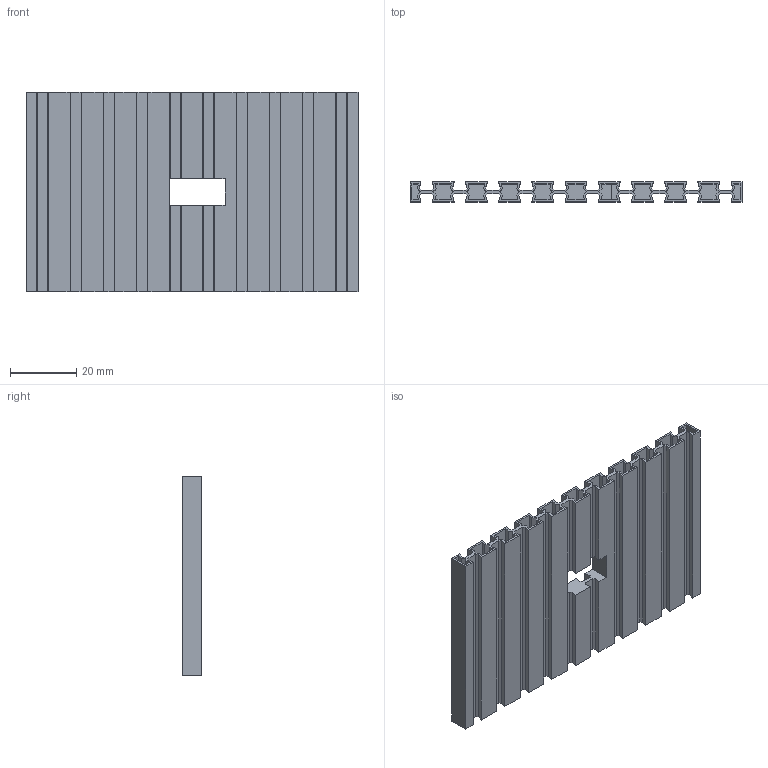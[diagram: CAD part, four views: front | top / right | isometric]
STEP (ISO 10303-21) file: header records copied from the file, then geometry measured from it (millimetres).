
FILE_DESCRIPTION(/* description */ (''),/* implementation_level */ '2;1');
FILE_NAME(/* name */ 'C:/Users/priba/Downloads/PlateHorizontal6x10.step',/* time_stamp */ '2020-06-09T22:21:33+02:00',/* author */ (''),/* organization */ (''),/* preprocessor_version */ 'ST-DEVELOPER v18.1',/* originating_system */ 'Autodesk Translation Framework v9.3.0.1241',/* authorisation */ '');
FILE_SCHEMA (('AUTOMOTIVE_DESIGN { 1 0 10303 214 3 1 1 }'));
Length unit declared in the file: millimetre
Products named in the file (1): PlateHorizontal6x10
Bounding box: 100 x 6 x 60 mm (x, y, z)
Volume: 10847.5 mm3; surface area: 32721.2 mm2
Topology: 1 solids, 2 shells, 285 faces, 816 edges, 544 vertices
Faces by surface type: plane 285
Entity records: 9134 total; most frequent: CARTESIAN_POINT 1646, ORIENTED_EDGE 1632, DIRECTION 1388, LINE 816, VECTOR 816, EDGE_CURVE 816, VERTEX_POINT 544, EDGE_LOOP 296
